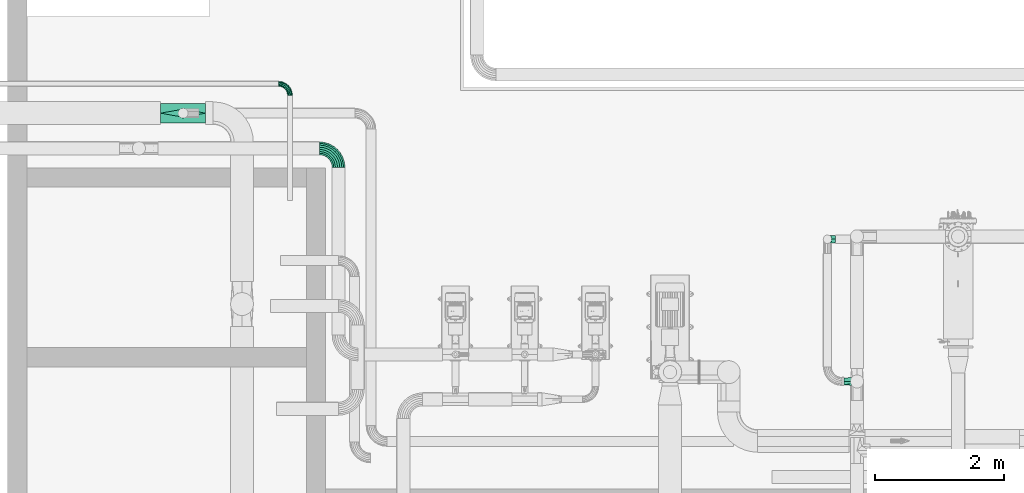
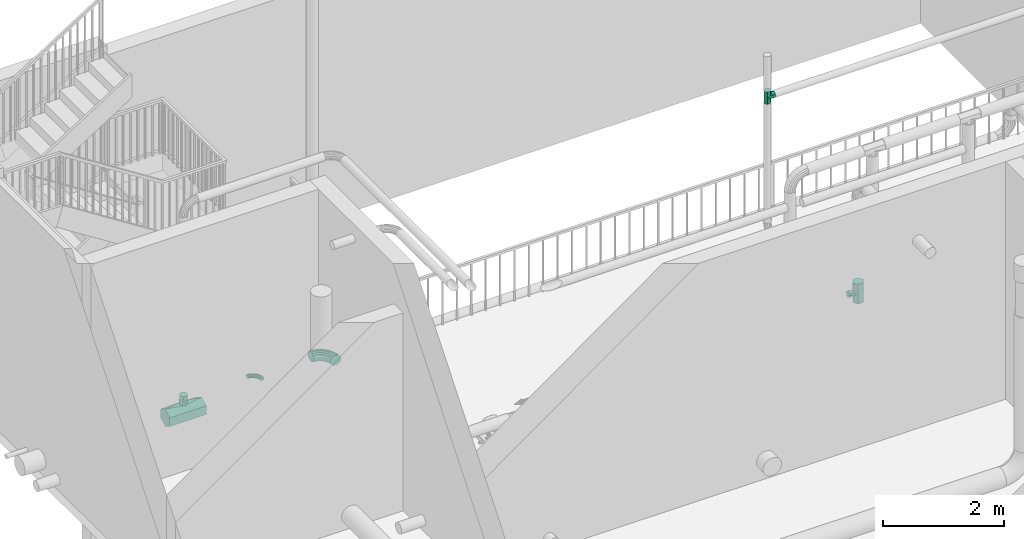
# One storey, part 27 of 28: 5 flow fittings.
"""IFC2X3 building model written with IfcOpenShell, lengths in millimetres."""

from ifc_helpers import new_model, entity, si_unit, converted_unit, direction, frame, origin, place, context, subcontext, project, spatial, faceted_brep, source, transform, mapped, material, type_object, type_shapes, element, save


model = new_model("IFC2X3")

# Units and contexts
model_context = context("Model", 3, precision=0.01, world=origin(), true_north=direction((6.123031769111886e-17, 1.0)))
body_context = subcontext(model_context, "Body", "Model", "MODEL_VIEW")
ifc_project = project(units=[si_unit("LENGTHUNIT", "METRE", prefix="MILLI"), converted_unit("PLANEANGLEUNIT", "DEGREE", entity("IfcPlaneAngleMeasure", 0.017453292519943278), si_unit("PLANEANGLEUNIT", "RADIAN"), dimensions=[0, 0, 0, 0, 0, 0, 0]), si_unit("AREAUNIT", "SQUARE_METRE")], contexts=[model_context])

# Site, building, storey
site_placement = place(None, frame((7776.576483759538, 118.3519876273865, 0.0)))
site = spatial("IfcSite", under=ifc_project, at=site_placement, Name="Default", CompositionType="ELEMENT")
building_placement = place(site_placement, origin())
building = spatial("IfcBuilding", under=site, at=building_placement, Name="Bygning (endres i Project Information)", CompositionType="ELEMENT")
storey_placement = place(building_placement, frame((0.0, 0.0, 14000.0)))
storey = spatial("IfcBuildingStorey", under=building, at=storey_placement, Name="Plan U1 - Arbeid", CompositionType="ELEMENT", Elevation=14000.000000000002)

# Flow fittings
ifc_material = material(Name="SS 2343 Rustfritt stål, prosessrør, generisk")
pipe_fitting_type_1 = type_object("IfcPipeFittingType", Name="VA_prosess_rustfritt_bend_D+100:VA_prosess_rustfritt_bend_D+100", PredefinedType="NOTDEFINED", material=ifc_material)
shared_shape_1 = source(origin(), body_context, "Body", "Brep", [
    faceted_brep([(-123.05981007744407, -32.50368178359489, 0.0), (-124.44681715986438, -27.327300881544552, 20.0), (-180.0, -34.64101615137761, 20.0), (-180.0, -40.0, 0.0), (-128.23619097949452, -13.185165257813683, 34.641016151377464), (-180.0, -20.0, 34.641016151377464), (-133.41257188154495, 6.133351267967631, 40.0), (-180.0, 0.0, 40.0), (-138.5889527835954, 25.451867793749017, 34.641016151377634), (-180.0, 20.0, 34.641016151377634), (-142.37832660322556, 39.59400341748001, 20.0), (-180.0, 34.64101615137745, 20.0), (-143.7653336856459, 44.770384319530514, 0.0), (-180.0, 40.0, 0.0), (-142.3783266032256, 39.59400341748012, -20.0), (-180.0, 34.641016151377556, -20.0), (-138.58895278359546, 25.4518677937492, -34.64101615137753), (-180.0, 20.0, -34.64101615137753), (-133.41257188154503, 6.133351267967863, -40.0), (-180.0, 0.0, -40.0), (-128.23619097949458, -13.185165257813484, -34.64101615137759), (-180.0, -20.0, -34.64101615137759), (-124.44681715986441, -27.32730088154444, -20.0), (-180.0, -34.64101615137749, -20.0), (-70.0, -10.52558883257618, 0.0), (-72.67949192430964, -5.8845726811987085, 20.0), (-80.0, 6.79491924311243, 34.641016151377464), (-90.0, 24.115427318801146, 40.0), (-100.0, 41.43593539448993, 34.641016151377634), (-107.32050807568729, 54.11542731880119, 20.0), (-110.0, 58.7564434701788, 0.0), (-107.32050807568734, 54.11542731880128, -20.0), (-100.0, 41.43593539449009, -34.64101615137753), (-90.0, 24.115427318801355, -40.0), (-80.0, 6.7949192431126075, -34.64101615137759), (-72.6794919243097, -5.884572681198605, -20.0), (-24.436508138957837, 24.436508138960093, 0.0), (-28.22588195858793, 28.225881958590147, 20.0), (-38.57864376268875, 38.57864376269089, 34.641016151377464), (-52.72077938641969, 52.72077938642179, 40.0), (-66.86291501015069, 66.86291501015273, 34.641016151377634), (-77.21567681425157, 77.21567681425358, 20.0), (-81.00505063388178, 81.00505063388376, 0.0), (-77.21567681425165, 77.21567681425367, -20.0), (-66.86291501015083, 66.86291501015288, -34.64101615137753), (-52.72077938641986, 52.72077938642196, -40.0), (-38.5786437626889, 38.57864376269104, -34.64101615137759), (-28.225881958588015, 28.225881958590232, -20.0), (10.525588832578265, 70.0, 0.0), (5.884572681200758, 72.67949192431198, 20.0), (-6.794919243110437, 80.0, 34.641016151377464), (-24.11542731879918, 90.0, 40.0), (-41.435935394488, 100.0, 34.641016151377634), (-54.11542731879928, 107.32050807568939, 20.0), (-58.756443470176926, 110.0, 0.0), (-54.11542731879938, 107.32050807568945, -20.0), (-41.435935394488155, 100.0, -34.64101615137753), (-24.11542731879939, 90.0, -40.0), (-6.7949192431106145, 80.0, -34.64101615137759), (5.884572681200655, 72.67949192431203, -20.0), (32.50368178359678, 123.05981007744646, 0.0), (27.32730088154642, 124.44681715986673, 20.0), (13.185165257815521, 128.23619097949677, 34.641016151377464), (-6.133351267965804, 133.41257188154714, 40.0), (-25.45186779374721, 138.58895278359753, 34.641016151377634), (-39.59400341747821, 142.37832660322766, 20.0), (-44.77038431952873, 143.76533368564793, 0.0), (-39.59400341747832, 142.3783266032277, -20.0), (-25.45186779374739, 138.5889527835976, -34.64101615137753), (-6.133351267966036, 133.41257188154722, -40.0), (13.185165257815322, 128.23619097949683, -34.64101615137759), (27.327300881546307, 124.44681715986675, -20.0), (40.0, 180.0, 0.0), (34.64101615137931, 180.0, 20.0), (20.0, 180.0, 34.641016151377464), (0.0, 180.0, 40.0), (-20.0, 180.0, 34.641016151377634), (-34.64101615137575, 180.0, 20.0), (-40.0, 180.0, 0.0), (-34.64101615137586, 180.0, -20.0), (-20.0, 180.0, -34.64101615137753), (0.0, 180.0, -40.0), (20.0, 180.0, -34.64101615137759), (34.64101615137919, 180.0, -20.0)], [[[0, 1, 2, 3]], [[1, 4, 5, 2]], [[4, 6, 7, 5]], [[6, 8, 9, 7]], [[8, 10, 11, 9]], [[10, 12, 13, 11]], [[12, 14, 15, 13]], [[14, 16, 17, 15]], [[16, 18, 19, 17]], [[18, 20, 21, 19]], [[20, 22, 23, 21]], [[22, 0, 3, 23]], [[24, 25, 1, 0]], [[25, 26, 4, 1]], [[26, 27, 6, 4]], [[27, 28, 8, 6]], [[28, 29, 10, 8]], [[29, 30, 12, 10]], [[30, 31, 14, 12]], [[31, 32, 16, 14]], [[32, 33, 18, 16]], [[33, 34, 20, 18]], [[34, 35, 22, 20]], [[35, 24, 0, 22]], [[36, 37, 25, 24]], [[37, 38, 26, 25]], [[38, 39, 27, 26]], [[39, 40, 28, 27]], [[40, 41, 29, 28]], [[41, 42, 30, 29]], [[42, 43, 31, 30]], [[43, 44, 32, 31]], [[44, 45, 33, 32]], [[45, 46, 34, 33]], [[46, 47, 35, 34]], [[47, 36, 24, 35]], [[48, 49, 37, 36]], [[49, 50, 38, 37]], [[50, 51, 39, 38]], [[51, 52, 40, 39]], [[52, 53, 41, 40]], [[53, 54, 42, 41]], [[54, 55, 43, 42]], [[55, 56, 44, 43]], [[56, 57, 45, 44]], [[57, 58, 46, 45]], [[58, 59, 47, 46]], [[59, 48, 36, 47]], [[60, 61, 49, 48]], [[61, 62, 50, 49]], [[62, 63, 51, 50]], [[63, 64, 52, 51]], [[64, 65, 53, 52]], [[65, 66, 54, 53]], [[66, 67, 55, 54]], [[67, 68, 56, 55]], [[68, 69, 57, 56]], [[69, 70, 58, 57]], [[70, 71, 59, 58]], [[71, 60, 48, 59]], [[72, 73, 61, 60]], [[73, 74, 62, 61]], [[74, 75, 63, 62]], [[75, 76, 64, 63]], [[76, 77, 65, 64]], [[77, 78, 66, 65]], [[78, 79, 67, 66]], [[79, 80, 68, 67]], [[80, 81, 69, 68]], [[81, 82, 70, 69]], [[82, 83, 71, 70]], [[83, 72, 60, 71]], [[3, 2, 5, 7, 9, 11, 13, 15, 17, 19, 21, 23]], [[83, 82, 81, 80, 79, 78, 77, 76, 75, 74, 73, 72]]]),
])
type_shapes(pipe_fitting_type_1, [shared_shape_1])
flow_fitting_1_placement = place(storey_placement, frame((17270.293456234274, 30805.75730578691, 192.0), z_axis=(1.3011276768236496e-08, 0.0, 1.0), x_axis=(0.0, 1.0, 0.0)))
element("IfcFlowFitting", 1, at=flow_fitting_1_placement, inside=storey, type_object=pipe_fitting_type_1, material=ifc_material, Name="VA_prosess_rustfritt_bend_D+100:VA_prosess_rustfritt_bend_D+100", ObjectType="VA_prosess_rustfritt_bend_D+100:VA_prosess_rustfritt_bend_D+100", context=body_context, shape_type="MappedRepresentation", body=[
    mapped(shared_shape_1, transform((0.0, 0.0, 0.0), scale=1.0)),
])
pipe_fitting_type_2 = type_object("IfcPipeFittingType", Name="VA_prosess_rustfritt_T_D=L:T-rør_prosess_D=L", PredefinedType="NOTDEFINED", material=ifc_material)
shared_shape_2 = source(origin(), body_context, "Body", "Brep", [
    faceted_brep([(-125.0, -62.499999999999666, 0.0), (-125.0, -46.874999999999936, 27.063293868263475), (-125.0, -31.250000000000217, 54.12658773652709), (-125.0, 0.0, 54.12658773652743), (-125.0, 31.24999999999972, 54.12658773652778), (-125.0, 46.87500000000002, 27.063293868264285), (-125.0, 62.50000000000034, 0.0), (-125.0, 46.87500000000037, -27.063293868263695), (-125.0, 31.250000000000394, -54.12658773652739), (-125.0, 0.0, -54.12658773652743), (-125.0, -31.24999999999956, -54.12658773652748), (-125.0, -46.874999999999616, -27.063293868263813), (125.0, 31.2499999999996, -54.12658773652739), (125.0, 46.874999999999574, -27.063293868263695), (125.0, 62.499999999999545, 0.0), (125.0, 46.02486866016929, 28.535764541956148), (125.0, 31.249999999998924, 54.12658773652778), (125.0, 0.0, 54.12658773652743), (125.0, -31.250000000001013, 54.12658773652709), (125.0, -46.87500000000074, 27.063293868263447), (125.0, -62.50000000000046, 0.0), (125.0, -46.8750000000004, -27.06329386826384), (125.0, -31.25000000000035, -54.12658773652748), (125.0, 0.0, -54.12658773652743), (62.50000000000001, -62.500000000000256, 0.0), (-62.500000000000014, -62.49999999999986, 0.0), (53.32409601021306, -53.32409601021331, 32.60047215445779), (24.938058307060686, -24.93805830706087, 57.30918990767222), (0.0, 0.0, 62.50000000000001), (-53.324096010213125, -53.324096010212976, 32.60047215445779), (-24.938058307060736, -24.938058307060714, 57.30918990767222), (24.938058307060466, -24.938058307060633, -57.30918990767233), (0.0, 0.0, -62.50000000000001), (-53.324096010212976, -53.32409601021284, -32.600472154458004), (-24.93805830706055, -24.938058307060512, -57.309189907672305), (53.32409601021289, -53.32409601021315, -32.60047215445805), (-46.87499999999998, -125.0, -27.063293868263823), (-31.24999999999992, -125.0, -54.12658773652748), (0.0, -125.0, -54.12658773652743), (31.250000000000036, -125.0, -54.12658773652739), (46.875, -125.0, -27.0632938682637), (62.49999999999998, -125.0, 0.0), (46.87499999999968, -125.0, 27.06329386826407), (31.24999999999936, -125.0, 54.12658773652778), (0.0, -125.0, 54.12658773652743), (-31.25000000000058, -125.0, 54.12658773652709), (-46.875000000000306, -125.0, 27.063293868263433), (-62.50000000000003, -125.0, 0.0)], [[[0, 1, 2, 3, 4, 5, 6, 7, 8, 9, 10, 11]], [[12, 13, 14, 15, 16, 17, 18, 19, 20, 21, 22, 23]], [[20, 19, 24]], [[1, 0, 25]], [[26, 19, 18]], [[27, 17, 28]], [[14, 6, 5, 4, 16, 15]], [[25, 29, 1]], [[30, 2, 29]], [[24, 19, 26]], [[29, 2, 1]], [[27, 18, 17]], [[28, 17, 16]], [[3, 2, 30]], [[28, 4, 3]], [[4, 28, 16]], [[3, 30, 28]], [[27, 26, 18]], [[14, 13, 12, 8, 7, 6]], [[31, 23, 22]], [[32, 23, 31]], [[8, 32, 9]], [[25, 11, 33]], [[12, 32, 8]], [[9, 34, 10]], [[34, 9, 32]], [[32, 12, 23]], [[21, 20, 24]], [[0, 11, 25]], [[24, 35, 21]], [[10, 33, 11]], [[10, 34, 33]], [[35, 22, 21]], [[31, 22, 35]], [[36, 37, 38, 39, 40, 41, 42, 43, 44, 45, 46, 47]], [[25, 46, 29]], [[46, 25, 47]], [[44, 27, 28]], [[30, 29, 45]], [[27, 44, 43]], [[30, 45, 44]], [[41, 24, 42]], [[24, 26, 42]], [[46, 45, 29]], [[44, 28, 30]], [[26, 27, 43]], [[26, 43, 42]], [[24, 40, 35]], [[40, 24, 41]], [[33, 37, 36]], [[31, 35, 39]], [[38, 37, 34]], [[31, 39, 38]], [[47, 25, 36]], [[32, 31, 38]], [[25, 33, 36]], [[40, 39, 35]], [[33, 34, 37]], [[38, 34, 32]]]),
])
type_shapes(pipe_fitting_type_2, [shared_shape_2])
flow_fitting_2_placement = place(storey_placement, frame((25634.00137486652, 28385.82368856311, 4334.499999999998), z_axis=(0.0, -1.0, 0.0), x_axis=(0.0, 0.0, 1.0)))
element("IfcFlowFitting", 2, at=flow_fitting_2_placement, inside=storey, type_object=pipe_fitting_type_2, material=ifc_material, Name="VA_prosess_rustfritt_T_D=L:T-rør_prosess_D=L", ObjectType="VA_prosess_rustfritt_T_D=L:T-rør_prosess_D=L", context=body_context, shape_type="MappedRepresentation", body=[
    mapped(shared_shape_2, transform((0.0, 0.0, 0.0), scale=1.0)),
])
pipe_fitting_type_3 = type_object("IfcPipeFittingType", Name="VA_prosess_rustfritt_T_D=L:T-rør_prosess_D=L", PredefinedType="NOTDEFINED", material=ifc_material)
shared_shape_3 = source(origin(), body_context, "Body", "Brep", [
    faceted_brep([(-200.0, -100.0, 0.0), (-200.0, -75.0, 43.30127018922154), (-200.0, -50.0, 86.60254037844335), (-200.0, 0.0, 86.60254037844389), (-200.0, 50.0, 86.60254037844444), (-200.0, 75.0, 43.30127018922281), (-200.0, 100.0, 0.0), (-200.0, 79.16042262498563, -36.0952068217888), (-200.0, 50.0, -86.60254037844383), (-200.0, 0.0, -86.60254037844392), (-200.0, -50.0, -86.60254037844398), (-200.0, -75.0, -43.301270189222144), (200.0, 50.0, -86.60254037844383), (200.0, 75.0, -43.30127018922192), (200.0, 100.0, 0.0), (200.0, 79.16042409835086, 36.095204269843), (200.0, 50.0, 86.60254037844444), (200.0, 0.0, 86.60254037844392), (200.0, -50.0, 86.60254037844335), (200.0, -75.0, 43.3012701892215), (200.0, -100.0, 0.0), (200.0, -75.0, -43.30127018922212), (200.0, -50.0, -86.60254037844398), (200.0, 0.0, -86.60254037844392), (62.49999999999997, -100.0, 0.0), (-62.50000000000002, -100.0, 0.0), (-25.679525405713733, -89.42673822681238, 30.74950914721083), (11.140949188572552, -78.8534764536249, 61.4990182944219), (36.82047459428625, -89.42673822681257, 30.749509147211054), (25.679272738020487, -89.42677392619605, -30.74946337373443), (-11.141454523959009, -78.85354785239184, -61.49892674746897), (-36.820727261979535, -89.42677392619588, -30.749463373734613), (-45.5936559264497, -200.0, -29.282646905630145), (-31.24999999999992, -200.0, -54.12658773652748), (0.0, -200.0, -54.12658773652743), (31.250000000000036, -200.0, -54.12658773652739), (45.59365629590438, -200.0, -29.282646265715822), (62.49999999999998, -200.0, 0.0), (45.593655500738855, -200.0, 29.28264764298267), (31.24999999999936, -200.0, 54.12658773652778), (0.0, -200.0, 54.12658773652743), (-31.25000000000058, -200.0, 54.12658773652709), (-45.593656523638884, -200.0, 29.282645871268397), (-62.50000000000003, -200.0, 0.0)], [[[0, 1, 2, 3, 4, 5, 6, 7, 8, 9, 10, 11]], [[12, 13, 14, 15, 16, 17, 18, 19, 20, 21, 22, 23]], [[20, 19, 24]], [[1, 0, 25]], [[1, 25, 26, 27]], [[19, 27, 28, 24]], [[27, 2, 1]], [[19, 18, 27]], [[4, 3, 2, 18, 17, 16]], [[16, 15, 14, 6, 5, 4]], [[27, 18, 2]], [[8, 7, 6, 14, 13, 12]], [[22, 10, 9, 8, 12, 23]], [[20, 24, 21]], [[25, 0, 11]], [[21, 24, 29, 30]], [[11, 30, 31, 25]], [[30, 22, 21]], [[30, 11, 10]], [[30, 10, 22]], [[32, 33, 34, 35, 36, 37, 38, 39, 40, 41, 42, 43]], [[26, 42, 41]], [[26, 41, 40]], [[26, 25, 42]], [[28, 39, 38]], [[26, 40, 27]], [[25, 43, 42]], [[27, 39, 28]], [[38, 24, 28]], [[27, 40, 39]], [[38, 37, 24]], [[29, 36, 35]], [[29, 35, 34]], [[29, 24, 36]], [[31, 33, 32]], [[29, 34, 30]], [[24, 37, 36]], [[30, 33, 31]], [[32, 25, 31]], [[30, 34, 33]], [[32, 43, 25]]]),
])
type_shapes(pipe_fitting_type_3, [shared_shape_3])
flow_fitting_3_placement = place(storey_placement, frame((26093.826249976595, 26172.757305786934, 1580.0), z_axis=(0.0, 1.0, 0.0), x_axis=(0.0, 0.0, 1.0)))
element("IfcFlowFitting", 3, at=flow_fitting_3_placement, inside=storey, type_object=pipe_fitting_type_3, material=ifc_material, Name="VA_prosess_rustfritt_T_D=L:T-rør_prosess_D=L", ObjectType="VA_prosess_rustfritt_T_D=L:T-rør_prosess_D=L", context=body_context, shape_type="MappedRepresentation", body=[
    mapped(shared_shape_3, transform((0.0, 0.0, 0.0), scale=1.0)),
])
pipe_fitting_type_4 = type_object("IfcPipeFittingType", Name="VA_prosess_rustfritt_T_D=L:T-rør_prosess_D=L", PredefinedType="NOTDEFINED", material=ifc_material)
shared_shape_4 = source(origin(), body_context, "Body", "Brep", [
    faceted_brep([(-350.0, -175.0, 0.0), (-350.0, -131.24999999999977, 75.77722283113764), (-350.0, -87.50000000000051, 151.55444566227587), (-350.0, 0.0, 151.55444566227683), (-350.0, 87.49999999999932, 151.55444566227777), (-350.0, 131.25000000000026, 75.77722283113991), (-350.0, 175.0, 0.0), (-350.0, 131.25000000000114, -75.77722283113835), (-350.0, 87.50000000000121, -151.5544456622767), (-350.0, 0.0, -151.55444566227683), (-350.0, -87.49999999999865, -151.55444566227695), (-350.0, -131.2499999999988, -75.77722283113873), (350.0, 175.0, 0.0), (350.0, 119.86366475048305, 95.49893399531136), (350.0, 87.4999999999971, 151.55444566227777), (350.0, 0.0, 151.55444566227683), (350.0, -87.50000000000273, 151.55444566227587), (350.0, -131.25000000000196, 75.77722283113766), (350.0, -175.0, 0.0), (350.0, -131.25000000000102, -75.77722283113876), (350.0, -87.50000000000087, -151.55444566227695), (350.0, 0.0, -151.55444566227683), (350.0, 87.49999999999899, -151.5544456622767), (350.0, 131.2499999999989, -75.77722283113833), (75.0, -175.0, 0.0), (53.00895262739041, -166.76315258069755, 53.057053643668), (-0.00927825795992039, -158.11388328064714, 74.99999942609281), (-75.0, -175.0, 0.0), (-53.01625000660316, -166.765472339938, 53.04976187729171), (-0.00927825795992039, -158.11388328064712, -74.99999942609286), (53.00895262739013, -166.76315258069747, -53.05705364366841), (-53.01625000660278, -166.76547233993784, -53.04976187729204), (37.50000000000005, -350.0, -64.95190528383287), (56.250000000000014, -350.0, -32.475952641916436), (75.0, -350.0, 0.0), (56.24999999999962, -350.0, 32.47595264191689), (37.49999999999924, -350.0, 64.95190528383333), (0.0, -350.0, 64.95190528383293), (-37.50000000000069, -350.0, 64.95190528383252), (-56.25000000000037, -350.0, 32.47595264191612), (-75.0, -350.0, 0.0), (-56.249999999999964, -350.0, -32.47595264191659), (-37.49999999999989, -350.0, -64.95190528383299), (0.0, -350.0, -64.95190528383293)], [[[0, 1, 2, 3, 4, 5, 6, 7, 8, 9, 10, 11]], [[12, 13, 14, 15, 16, 17, 18, 19, 20, 21, 22, 23]], [[24, 18, 25]], [[17, 16, 26]], [[25, 18, 17]], [[27, 28, 0]], [[3, 2, 16, 15, 14, 4]], [[0, 28, 1]], [[26, 1, 28]], [[4, 14, 13, 12, 6, 5]], [[2, 1, 26]], [[26, 16, 2]], [[26, 25, 17]], [[22, 21, 20, 10, 9, 8]], [[23, 22, 8, 7, 6, 12]], [[20, 29, 10]], [[30, 18, 24]], [[29, 20, 19]], [[29, 19, 30]], [[11, 10, 29]], [[31, 0, 11]], [[27, 0, 31]], [[11, 29, 31]], [[30, 19, 18]], [[32, 33, 34, 35, 36, 37, 38, 39, 40, 41, 42, 43]], [[27, 39, 28]], [[39, 27, 40]], [[39, 38, 28]], [[25, 36, 35]], [[26, 28, 38]], [[24, 35, 34]], [[26, 36, 25]], [[26, 38, 37, 36]], [[35, 24, 25]], [[24, 33, 30]], [[33, 24, 34]], [[33, 32, 30]], [[31, 42, 41]], [[29, 30, 32]], [[27, 41, 40]], [[29, 42, 31]], [[29, 32, 43, 42]], [[41, 27, 31]]]),
])
type_shapes(pipe_fitting_type_4, [shared_shape_4])
flow_fitting_4_placement = place(storey_placement, frame((15606.145510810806, 30347.75730578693, 278.00001978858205), z_axis=(0.0, 1.0, 0.0), x_axis=(1.0, 0.0, -2.1201029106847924e-08)))
element("IfcFlowFitting", 4, at=flow_fitting_4_placement, inside=storey, type_object=pipe_fitting_type_4, material=ifc_material, Name="VA_prosess_rustfritt_T_D=L:T-rør_prosess_D=L", ObjectType="VA_prosess_rustfritt_T_D=L:T-rør_prosess_D=L", context=body_context, shape_type="MappedRepresentation", body=[
    mapped(shared_shape_4, transform((0.0, 0.0, 0.0), scale=1.0)),
])
pipe_fitting_type_5 = type_object("IfcPipeFittingType", Name="VA_prosess_rustfritt_bend_D+100:VA_prosess_rustfritt_bend_D+100", PredefinedType="NOTDEFINED", material=ifc_material)
shared_shape_5 = source(origin(), body_context, "Body", "Brep", [
    faceted_brep([(-221.9638478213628, -92.31411306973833, 0.0), (-223.14038635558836, -86.39925407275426, 34.202014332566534), (-299.999972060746, -93.96926207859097, 34.202014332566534), (-299.999972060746, -100.0, 0.0), (-226.52809404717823, -69.36809637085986, 64.27876096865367), (-299.99997206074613, -76.60444431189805, 64.27876096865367), (-231.71836335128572, -43.27484893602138, 86.60254037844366), (-299.99997206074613, -50.0, 86.60254037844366), (-238.08517118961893, -11.266742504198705, 98.48077530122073), (-299.99997206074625, -17.36481776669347, 98.48077530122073), (-244.86058657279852, 22.79557289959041, 98.48077530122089), (-299.9999720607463, 17.36481776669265, 98.48077530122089), (-251.22739441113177, 54.80367933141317, 86.60254037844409), (-299.9999720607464, 50.0, 86.60254037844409), (-256.4176637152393, 80.89692676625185, 64.27876096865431), (-299.9999720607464, 76.60444431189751, 64.27876096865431), (-259.8053714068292, 97.9280844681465, 34.202014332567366), (-299.99997206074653, 93.96926207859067, 34.202014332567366), (-260.9819099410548, 103.84294346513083, 0.0), (-299.99997206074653, 100.0, 0.0), (-259.80537140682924, 97.92808446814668, -34.20201433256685), (-299.99997206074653, 93.96926207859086, -34.20201433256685), (-256.41766371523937, 80.89692676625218, -64.2787609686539), (-299.9999720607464, 76.60444431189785, -64.2787609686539), (-251.22739441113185, 54.80367933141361, -86.60254037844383), (-299.9999720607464, 50.0, -86.60254037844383), (-244.86058657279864, 22.795572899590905, -98.48077530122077), (-299.9999720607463, 17.364817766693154, -98.48077530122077), (-238.08517118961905, -11.266742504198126, -98.48077530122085), (-299.99997206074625, -17.36481776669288, -98.48077530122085), (-231.71836335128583, -43.2748489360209, -86.60254037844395), (-299.99997206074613, -50.0, -86.60254037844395), (-226.52809404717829, -69.36809637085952, -64.27876096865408), (-299.99997206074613, -76.6044443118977, -64.27876096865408), (-223.1403863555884, -86.39925407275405, -34.2020143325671), (-299.999972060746, -93.96926207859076, -34.2020143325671), (-146.92660771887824, -69.55181656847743, 0.0), (-149.23447107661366, -63.980141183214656, 34.202014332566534), (-155.87969876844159, -47.937141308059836, 64.27876096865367), (-166.06077826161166, -23.35783949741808, 86.60254037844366), (-178.54972111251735, 6.7931376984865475, 98.48077530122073), (-191.84017649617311, 38.87913744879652, 98.48077530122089), (-204.32911934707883, 69.03011464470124, 86.60254037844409), (-214.51019884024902, 93.60941645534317, 64.27876096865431), (-221.15542653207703, 109.6524163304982, 34.202014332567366), (-223.46328988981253, 115.22409171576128, 0.0), (-221.1554265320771, 109.65241633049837, -34.20201433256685), (-214.51019884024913, 93.60941645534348, -64.2787609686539), (-204.329119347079, 69.03011464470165, -86.60254037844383), (-191.8401764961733, 38.87913744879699, -98.48077530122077), (-178.54972111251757, 6.793137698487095, -98.48077530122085), (-166.06077826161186, -23.357839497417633, -86.60254037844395), (-155.8796987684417, -47.937141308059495, -64.27876096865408), (-149.23447107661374, -63.98014118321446, -34.2020143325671), (-77.77189046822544, -32.58785268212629, 0.0), (-81.12238876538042, -27.573477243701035, 34.202014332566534), (-90.76976411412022, -13.135158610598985, 64.27876096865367), (-105.55040066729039, 8.985628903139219, 86.60254037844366), (-123.68153551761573, 36.120791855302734, 98.48077530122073), (-142.97628621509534, 64.99742912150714, 98.48077530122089), (-161.1074210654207, 92.13259207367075, 86.60254037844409), (-175.88805761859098, 114.2533795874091, 64.27876096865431), (-185.53543296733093, 128.69169822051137, 34.202014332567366), (-188.88593126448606, 133.70607365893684, 0.0), (-185.53543296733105, 128.6916982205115, -34.20201433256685), (-175.88805761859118, 114.25337958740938, -64.2787609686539), (-161.10742106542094, 92.13259207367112, -86.60254037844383), (-142.97628621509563, 64.99742912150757, -98.48077530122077), (-123.68153551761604, 36.120791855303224, -98.48077530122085), (-105.55040066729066, 8.985628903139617, -86.60254037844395), (-90.76976411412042, -13.135158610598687, -64.27876096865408), (-81.12238876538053, -27.57347724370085, -34.2020143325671), (-17.15727275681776, 17.157274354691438, 0.0), (-21.421648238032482, 21.421650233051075, 34.202014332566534), (-33.70042806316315, 33.70043120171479, 64.27876096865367), (-52.512610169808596, 52.512615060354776, 86.60254037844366), (-75.58916775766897, 75.58917479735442, 98.48077530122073), (-100.14672740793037, 100.14673673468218, 98.48077530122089), (-123.2232849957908, 123.22329647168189, 86.60254037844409), (-142.03546710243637, 142.035480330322, 64.27876096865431), (-154.3142469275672, 154.3142612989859, 34.202014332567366), (-158.57862240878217, 158.57863717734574, 0.0), (-154.31424692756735, 154.31426129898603, -34.20201433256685), (-142.0354671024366, 142.03548033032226, -64.2787609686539), (-123.22328499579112, 123.2232964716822, -86.60254037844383), (-100.14672740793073, 100.14673673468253, -98.48077530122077), (-75.58916775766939, 75.58917479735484, -98.48077530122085), (-52.51261016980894, 52.51261506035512, -86.60254037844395), (-33.7004280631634, 33.70043120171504, -64.27876096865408), (-21.421648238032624, 21.421650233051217, -34.2020143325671), (32.58785992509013, 77.77188743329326, 0.0), (27.57348479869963, 81.12238619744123, 34.202014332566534), (13.135167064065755, 90.76976289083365, 64.27876096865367), (-8.985619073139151, 105.55040150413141, 86.60254037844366), (-36.12078033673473, 123.68153888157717, 98.48077530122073), (-64.99741580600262, 142.97629226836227, 98.48077530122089), (-92.13257706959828, 161.10742964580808, 86.60254037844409), (-114.25336320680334, 175.88806825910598, 64.27876096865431), (-128.69168094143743, 185.5354449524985, 34.202014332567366), (-133.70605606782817, 188.88594371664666, 0.0), (-128.69168094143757, 185.53544495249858, -34.20201433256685), (-114.25336320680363, 175.88806825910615, -64.2787609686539), (-92.13257706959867, 161.10742964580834, -86.60254037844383), (-64.99741580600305, 142.97629226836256, -98.48077530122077), (-36.12078033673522, 123.6815388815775, -98.48077530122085), (-8.98561907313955, 105.55040150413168, -86.60254037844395), (13.135167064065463, 90.76976289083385, -64.27876096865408), (27.57348479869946, 81.12238619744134, -34.2020143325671), (69.5518302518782, 146.9266012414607, 0.0), (63.98015508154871, 149.23446511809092, 34.202014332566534), (47.93715582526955, 155.87969430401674, 64.27876096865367), (23.35785496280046, 166.06077608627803, 86.60254037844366), (-6.79312106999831, 178.54972174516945, 98.48077530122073), (-38.87911958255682, 191.84018011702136, 98.48077530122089), (-69.03009561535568, 204.32912577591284, 86.60254037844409), (-93.60939647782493, 214.51020755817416, 64.27876096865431), (-109.65239573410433, 221.15543674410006, 34.202014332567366), (-115.22407090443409, 223.46330062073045, 0.0), (-109.6523957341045, 221.15543674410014, -34.20201433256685), (-93.60939647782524, 214.51020755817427, -64.2787609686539), (-69.03009561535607, 204.329125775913, -86.60254037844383), (-38.87911958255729, 191.84018011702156, -98.48077530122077), (-6.793121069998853, 178.54972174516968, -98.48077530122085), (23.357854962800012, 166.0607760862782, -86.60254037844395), (47.93715582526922, 155.87969430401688, -64.27876096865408), (63.98015508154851, 149.234465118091, -34.2020143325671), (92.3141337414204, 221.9638392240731, 0.0), (86.39927485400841, 223.1403783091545, 34.202014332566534), (69.36811746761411, 226.52808758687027, 64.27876096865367), (43.2748705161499, 231.71835932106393, 86.60254037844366), (11.266764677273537, 238.08517014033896, 98.48077530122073), (-22.795550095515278, 244.86058869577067, 98.48077530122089), (-54.80365593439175, 251.2273995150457, 86.60254037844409), (-80.89690288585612, 256.4176712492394, 64.27876096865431), (-97.92806027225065, 259.8053805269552, 34.202014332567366), (-103.84291915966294, 260.9819196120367, 0.0), (-97.92806027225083, 259.8053805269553, -34.20201433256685), (-80.89690288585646, 256.4176712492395, -64.2787609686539), (-54.80365593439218, 251.2273995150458, -86.60254037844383), (-22.795550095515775, 244.86058869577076, -98.48077530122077), (11.266764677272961, 238.08517014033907, -98.48077530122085), (43.274870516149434, 231.71835932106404, -86.60254037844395), (69.36811746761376, 226.52808758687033, -64.27876096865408), (86.39927485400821, 223.14037830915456, -34.2020143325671), (100.00002793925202, 299.9999627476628, 0.0), (93.96929001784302, 299.9999633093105, 34.202014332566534), (76.60447225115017, 299.9999649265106, 64.27876096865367), (50.00002793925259, 299.99996740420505, 86.60254037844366), (17.364845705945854, 299.99997044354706, 98.48077530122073), (-17.36478982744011, 299.9999736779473, 98.48077530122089), (-49.99997206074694, 299.9999767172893, 86.60254037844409), (-76.6044163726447, 299.9999791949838, 64.27876096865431), (-93.9692341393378, 299.9999808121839, 34.202014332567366), (-99.9999720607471, 299.9999813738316, 0.0), (-93.96923413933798, 299.9999808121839, -34.20201433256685), (-76.60441637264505, 299.9999791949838, -64.2787609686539), (-49.99997206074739, 299.9999767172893, -86.60254037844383), (-17.364789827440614, 299.9999736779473, -98.48077530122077), (17.364845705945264, 299.99997044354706, -98.48077530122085), (50.00002793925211, 299.99996740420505, -86.60254037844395), (76.60447225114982, 299.9999649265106, -64.27876096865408), (93.96929001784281, 299.9999633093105, -34.2020143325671)], [[[0, 1, 2, 3]], [[1, 4, 5, 2]], [[4, 6, 7, 5]], [[6, 8, 9, 7]], [[8, 10, 11, 9]], [[10, 12, 13, 11]], [[12, 14, 15, 13]], [[14, 16, 17, 15]], [[16, 18, 19, 17]], [[18, 20, 21, 19]], [[20, 22, 23, 21]], [[22, 24, 25, 23]], [[24, 26, 27, 25]], [[26, 28, 29, 27]], [[28, 30, 31, 29]], [[30, 32, 33, 31]], [[32, 34, 35, 33]], [[34, 0, 3, 35]], [[36, 37, 1, 0]], [[37, 38, 4, 1]], [[38, 39, 6, 4]], [[39, 40, 8, 6]], [[40, 41, 10, 8]], [[41, 42, 12, 10]], [[42, 43, 14, 12]], [[43, 44, 16, 14]], [[44, 45, 18, 16]], [[45, 46, 20, 18]], [[46, 47, 22, 20]], [[47, 48, 24, 22]], [[48, 49, 26, 24]], [[49, 50, 28, 26]], [[50, 51, 30, 28]], [[51, 52, 32, 30]], [[52, 53, 34, 32]], [[53, 36, 0, 34]], [[54, 55, 37, 36]], [[55, 56, 38, 37]], [[56, 57, 39, 38]], [[57, 58, 40, 39]], [[58, 59, 41, 40]], [[59, 60, 42, 41]], [[60, 61, 43, 42]], [[61, 62, 44, 43]], [[62, 63, 45, 44]], [[63, 64, 46, 45]], [[64, 65, 47, 46]], [[65, 66, 48, 47]], [[66, 67, 49, 48]], [[67, 68, 50, 49]], [[68, 69, 51, 50]], [[69, 70, 52, 51]], [[70, 71, 53, 52]], [[71, 54, 36, 53]], [[72, 73, 55, 54]], [[73, 74, 56, 55]], [[74, 75, 57, 56]], [[75, 76, 58, 57]], [[76, 77, 59, 58]], [[77, 78, 60, 59]], [[78, 79, 61, 60]], [[79, 80, 62, 61]], [[80, 81, 63, 62]], [[81, 82, 64, 63]], [[82, 83, 65, 64]], [[83, 84, 66, 65]], [[84, 85, 67, 66]], [[85, 86, 68, 67]], [[86, 87, 69, 68]], [[87, 88, 70, 69]], [[88, 89, 71, 70]], [[89, 72, 54, 71]], [[90, 91, 73, 72]], [[91, 92, 74, 73]], [[92, 93, 75, 74]], [[93, 94, 76, 75]], [[94, 95, 77, 76]], [[95, 96, 78, 77]], [[96, 97, 79, 78]], [[97, 98, 80, 79]], [[98, 99, 81, 80]], [[99, 100, 82, 81]], [[100, 101, 83, 82]], [[101, 102, 84, 83]], [[102, 103, 85, 84]], [[103, 104, 86, 85]], [[104, 105, 87, 86]], [[105, 106, 88, 87]], [[106, 107, 89, 88]], [[107, 90, 72, 89]], [[108, 109, 91, 90]], [[109, 110, 92, 91]], [[110, 111, 93, 92]], [[111, 112, 94, 93]], [[112, 113, 95, 94]], [[113, 114, 96, 95]], [[114, 115, 97, 96]], [[115, 116, 98, 97]], [[116, 117, 99, 98]], [[117, 118, 100, 99]], [[118, 119, 101, 100]], [[119, 120, 102, 101]], [[120, 121, 103, 102]], [[121, 122, 104, 103]], [[122, 123, 105, 104]], [[123, 124, 106, 105]], [[124, 125, 107, 106]], [[125, 108, 90, 107]], [[126, 127, 109, 108]], [[127, 128, 110, 109]], [[128, 129, 111, 110]], [[129, 130, 112, 111]], [[130, 131, 113, 112]], [[131, 132, 114, 113]], [[132, 133, 115, 114]], [[133, 134, 116, 115]], [[134, 135, 117, 116]], [[135, 136, 118, 117]], [[136, 137, 119, 118]], [[137, 138, 120, 119]], [[138, 139, 121, 120]], [[139, 140, 122, 121]], [[140, 141, 123, 122]], [[141, 142, 124, 123]], [[142, 143, 125, 124]], [[143, 126, 108, 125]], [[144, 145, 127, 126]], [[145, 146, 128, 127]], [[146, 147, 129, 128]], [[147, 148, 130, 129]], [[148, 149, 131, 130]], [[149, 150, 132, 131]], [[150, 151, 133, 132]], [[151, 152, 134, 133]], [[152, 153, 135, 134]], [[153, 154, 136, 135]], [[154, 155, 137, 136]], [[155, 156, 138, 137]], [[156, 157, 139, 138]], [[157, 158, 140, 139]], [[158, 159, 141, 140]], [[159, 160, 142, 141]], [[160, 161, 143, 142]], [[161, 144, 126, 143]], [[3, 2, 5, 7, 9, 11, 13, 15, 17, 19, 21, 23, 25, 27, 29, 31, 33, 35]], [[161, 160, 159, 158, 157, 156, 155, 154, 153, 152, 151, 150, 149, 148, 147, 146, 145, 144]]]),
])
type_shapes(pipe_fitting_type_5, [shared_shape_5])
flow_fitting_5_placement = place(storey_placement, frame((18027.001375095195, 29800.75701940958, 985.012379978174), z_axis=(0.0, 0.0, 1.0), x_axis=(0.0, 1.0, 0.0)))
element("IfcFlowFitting", 5, at=flow_fitting_5_placement, inside=storey, type_object=pipe_fitting_type_5, material=ifc_material, Name="VA_prosess_rustfritt_bend_D+100:VA_prosess_rustfritt_bend_D+100", ObjectType="VA_prosess_rustfritt_bend_D+100:VA_prosess_rustfritt_bend_D+100", context=body_context, shape_type="MappedRepresentation", body=[
    mapped(shared_shape_5, transform((0.0, 0.0, 0.0), scale=1.0)),
])

save(model, "model.ifc")
